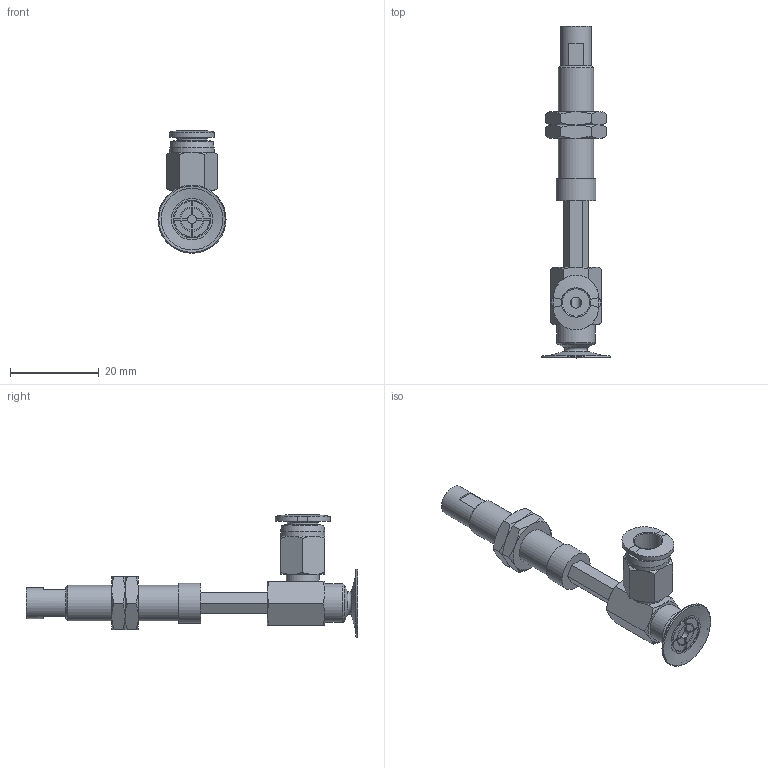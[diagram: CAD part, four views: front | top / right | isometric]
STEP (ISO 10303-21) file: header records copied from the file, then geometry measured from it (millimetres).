
FILE_DESCRIPTION(('STEP AP203'),'1');
FILE_NAME('-O.stp','2025-03-13T03:17:58',(' '),(' '),'Spatial InterOp 3D',' ',' ');
FILE_SCHEMA(('CONFIG_CONTROL_DESIGN'));
Length unit declared in the file: millimetre
Products named in the file (7): BNABPAYH-15B-15-※-O; NAPATH-10A-15--M; NAPATH-10A-15--F; Nut-10A-S; CONNECTOR-10A-15-PA; PC-C_06-M5; BPAG-15B-※
Assembly tree (7 placements, depth 2):
  BNABPAYH-15B-15-※-O
    NAPATH-10A-15--M
    NAPATH-10A-15--F
    Nut-10A-S  x2
    CONNECTOR-10A-15-PA
    PC-C_06-M5
    BPAG-15B-※
Bounding box: 15.4 x 75 x 27.68 mm (x, y, z)
Volume: 4766.7 mm3; surface area: 6176.6 mm2
Topology: 7 solids, 7 shells, 232 faces, 511 edges, 311 vertices
Faces by surface type: plane 100, cone 76, cylinder 37, torus 12, bspline 4, revolution 3
Full cylindrical faces by diameter (mm): 2 x2, 4 x4, 4.134 x2, 5 x2, 6 x2, 7 x2, 7.188 x2, 7.4 x1, 8 x1, 8.2 x1, 8.5 x1, 8.7 x1, 9 x1, 10 x1
Entity records: 6228 total; most frequent: CARTESIAN_POINT 1673, DIRECTION 861, ORIENTED_EDGE 796, EDGE_CURVE 398, AXIS2_PLACEMENT_3D 354, EDGE_LOOP 288, VERTEX_POINT 270, FACE_OUTER_BOUND 243
